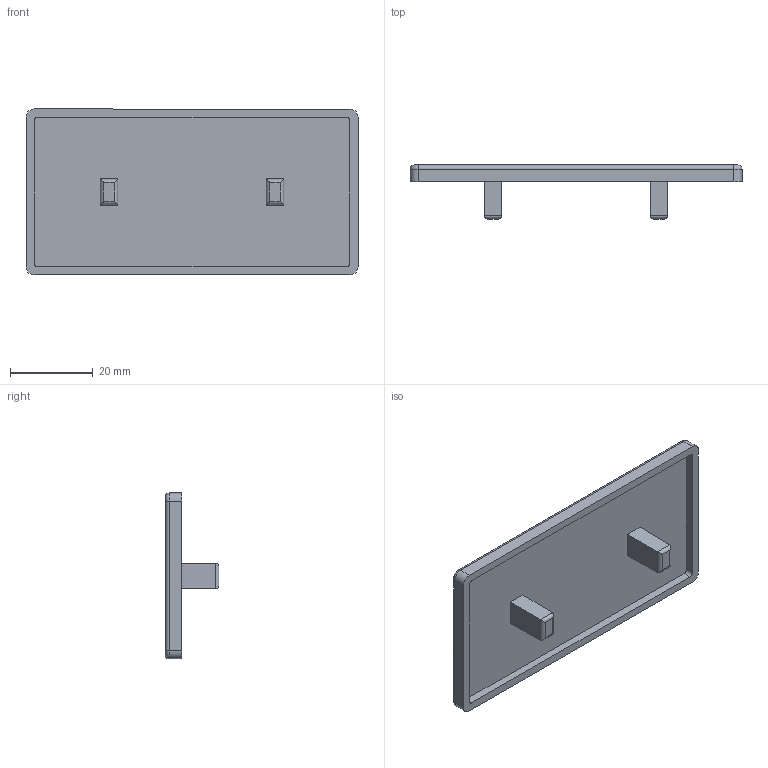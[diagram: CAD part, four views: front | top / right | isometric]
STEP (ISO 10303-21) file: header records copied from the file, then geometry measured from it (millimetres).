
FILE_DESCRIPTION (( 'STEP AP214' ), '1' );
FILE_NAME ('J4C8.step', '2017-05-24T07:41:16', ( 'admin' ), ( '' ), 'SwSTEP 2.0', 'SolidWorks 2014', '' );
FILE_SCHEMA (( 'AUTOMOTIVE_DESIGN' ));
Length unit declared in the file: millimetre
Products named in the file (1): J4C8
Bounding box: 80 x 13 x 40 mm (x, y, z)
Volume: 7833.6 mm3; surface area: 8122.2 mm2
Topology: 1 solids, 1 shells, 45 faces, 104 edges, 64 vertices
Faces by surface type: plane 21, cylinder 20, torus 4
Entity records: 1292 total; most frequent: CARTESIAN_POINT 238, DIRECTION 216, ORIENTED_EDGE 208, EDGE_CURVE 104, AXIS2_PLACEMENT_3D 74, LINE 68, VECTOR 68, VERTEX_POINT 64
